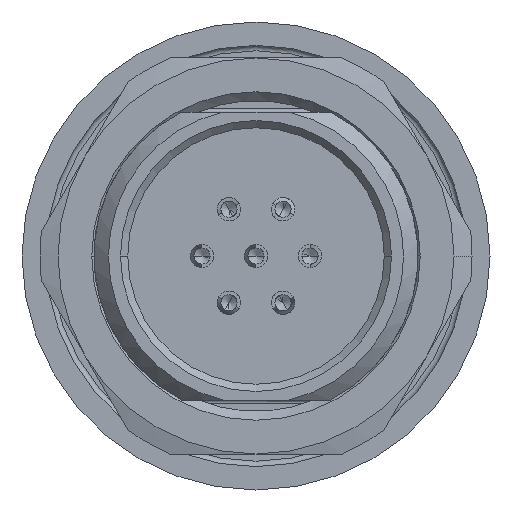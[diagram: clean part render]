
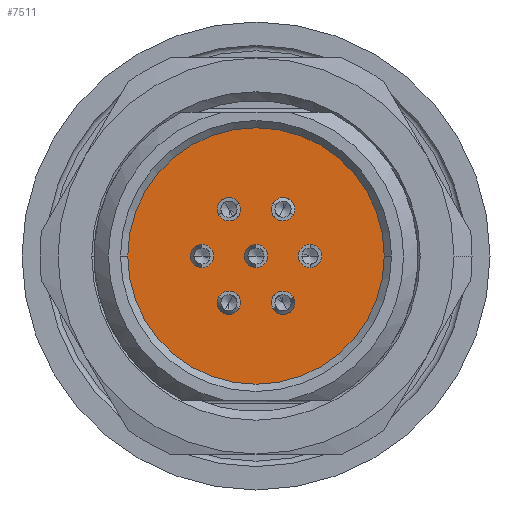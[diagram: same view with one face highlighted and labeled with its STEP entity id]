
A CAD part, left-side view. The second image highlights one B-rep face of the part: STEP entity #7511.
In plain terms, the highlighted planar face has unit normal (-1, 0, 0).
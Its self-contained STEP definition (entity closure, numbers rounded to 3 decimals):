
#1820=CARTESIAN_POINT('',(-10.,0.,0.));
#1821=DIRECTION('',(1.,0.,0.));
#1822=DIRECTION('',(0.,-1.,0.));
#1823=AXIS2_PLACEMENT_3D('',#1820,#1821,#1822);
#1838=CARTESIAN_POINT('',(-10.,3.,0.));
#1839=DIRECTION('',(-1.,0.,0.));
#1840=DIRECTION('',(0.,1.,0.));
#1841=AXIS2_PLACEMENT_3D('',#1838,#1839,#1840);
#1843=CARTESIAN_POINT('',(-10.,3.,0.));
#1844=DIRECTION('',(-1.,0.,0.));
#1845=DIRECTION('',(0.,-1.,0.));
#1846=AXIS2_PLACEMENT_3D('',#1843,#1844,#1845);
#1848=CARTESIAN_POINT('',(-10.,1.5,2.598));
#1849=DIRECTION('',(-1.,0.,0.));
#1850=DIRECTION('',(0.,0.5,0.866));
#1851=AXIS2_PLACEMENT_3D('',#1848,#1849,#1850);
#1853=CARTESIAN_POINT('',(-10.,1.5,2.598));
#1854=DIRECTION('',(-1.,0.,0.));
#1855=DIRECTION('',(0.,-0.5,-0.866));
#1856=AXIS2_PLACEMENT_3D('',#1853,#1854,#1855);
#1858=CARTESIAN_POINT('',(-10.,-1.5,2.598));
#1859=DIRECTION('',(-1.,0.,0.));
#1860=DIRECTION('',(0.,-0.5,0.866));
#1861=AXIS2_PLACEMENT_3D('',#1858,#1859,#1860);
#1863=CARTESIAN_POINT('',(-10.,-1.5,2.598));
#1864=DIRECTION('',(-1.,0.,0.));
#1865=DIRECTION('',(0.,0.5,-0.866));
#1866=AXIS2_PLACEMENT_3D('',#1863,#1864,#1865);
#1868=CARTESIAN_POINT('',(-10.,-3.,0.));
#1869=DIRECTION('',(-1.,0.,0.));
#1870=DIRECTION('',(0.,-1.,0.));
#1871=AXIS2_PLACEMENT_3D('',#1868,#1869,#1870);
#1873=CARTESIAN_POINT('',(-10.,-3.,0.));
#1874=DIRECTION('',(-1.,0.,0.));
#1875=DIRECTION('',(0.,1.,0.));
#1876=AXIS2_PLACEMENT_3D('',#1873,#1874,#1875);
#1878=CARTESIAN_POINT('',(-10.,-1.5,-2.598));
#1879=DIRECTION('',(-1.,0.,0.));
#1880=DIRECTION('',(0.,-0.5,-0.866));
#1881=AXIS2_PLACEMENT_3D('',#1878,#1879,#1880);
#1883=CARTESIAN_POINT('',(-10.,-1.5,-2.598));
#1884=DIRECTION('',(-1.,0.,0.));
#1885=DIRECTION('',(0.,0.5,0.866));
#1886=AXIS2_PLACEMENT_3D('',#1883,#1884,#1885);
#1888=CARTESIAN_POINT('',(-10.,1.5,-2.598));
#1889=DIRECTION('',(-1.,0.,0.));
#1890=DIRECTION('',(0.,0.5,-0.866));
#1891=AXIS2_PLACEMENT_3D('',#1888,#1889,#1890);
#1893=CARTESIAN_POINT('',(-10.,1.5,-2.598));
#1894=DIRECTION('',(-1.,0.,0.));
#1895=DIRECTION('',(0.,-0.5,0.866));
#1896=AXIS2_PLACEMENT_3D('',#1893,#1894,#1895);
#1898=CARTESIAN_POINT('',(-10.,0.,0.));
#1899=DIRECTION('',(-1.,0.,0.));
#1900=DIRECTION('',(0.,1.,0.));
#1901=AXIS2_PLACEMENT_3D('',#1898,#1899,#1900);
#1903=CARTESIAN_POINT('',(-10.,0.,0.));
#1904=DIRECTION('',(-1.,0.,0.));
#1905=DIRECTION('',(0.,-1.,0.));
#1906=AXIS2_PLACEMENT_3D('',#1903,#1904,#1905);
#1908=CARTESIAN_POINT('',(-10.,0.,0.));
#1909=DIRECTION('',(1.,0.,0.));
#1910=DIRECTION('',(0.,1.,0.));
#1911=AXIS2_PLACEMENT_3D('',#1908,#1909,#1910);
#3819=CARTESIAN_POINT('',(-10.,3.65,0.));
#3820=CARTESIAN_POINT('',(-10.,2.35,0.));
#3821=VERTEX_POINT('',#3819);
#3822=VERTEX_POINT('',#3820);
#3857=CARTESIAN_POINT('',(-10.,1.825,3.161));
#3858=CARTESIAN_POINT('',(-10.,1.175,2.035));
#3859=VERTEX_POINT('',#3857);
#3860=VERTEX_POINT('',#3858);
#3895=CARTESIAN_POINT('',(-10.,-1.825,3.161));
#3896=CARTESIAN_POINT('',(-10.,-1.175,2.035));
#3897=VERTEX_POINT('',#3895);
#3898=VERTEX_POINT('',#3896);
#3933=CARTESIAN_POINT('',(-10.,-3.65,0.));
#3934=CARTESIAN_POINT('',(-10.,-2.35,0.));
#3935=VERTEX_POINT('',#3933);
#3936=VERTEX_POINT('',#3934);
#3971=CARTESIAN_POINT('',(-10.,-1.825,-3.161));
#3972=CARTESIAN_POINT('',(-10.,-1.175,-2.035));
#3973=VERTEX_POINT('',#3971);
#3974=VERTEX_POINT('',#3972);
#4009=CARTESIAN_POINT('',(-10.,1.825,-3.161));
#4010=CARTESIAN_POINT('',(-10.,1.175,-2.035));
#4011=VERTEX_POINT('',#4009);
#4012=VERTEX_POINT('',#4010);
#4047=CARTESIAN_POINT('',(-10.,0.65,0.));
#4048=CARTESIAN_POINT('',(-10.,-0.65,0.));
#4049=VERTEX_POINT('',#4047);
#4050=VERTEX_POINT('',#4048);
#4055=CARTESIAN_POINT('',(-10.,7.125,0.));
#4056=CARTESIAN_POINT('',(-10.,-7.125,0.));
#4057=VERTEX_POINT('',#4055);
#4058=VERTEX_POINT('',#4056);
#7459=CARTESIAN_POINT('',(-10.,0.,0.));
#7460=DIRECTION('',(1.,0.,0.));
#7461=DIRECTION('',(0.,-1.,0.));
#7462=AXIS2_PLACEMENT_3D('',#7459,#7460,#7461);
#7463=PLANE('',#7462);
#7465=ORIENTED_EDGE('',*,*,#7464,.T.);
#7466=ORIENTED_EDGE('',*,*,#7442,.T.);
#7467=EDGE_LOOP('',(#7465,#7466));
#7468=FACE_OUTER_BOUND('',#7467,.F.);
#7470=ORIENTED_EDGE('',*,*,#7469,.T.);
#7472=ORIENTED_EDGE('',*,*,#7471,.T.);
#7473=EDGE_LOOP('',(#7470,#7472));
#7474=FACE_BOUND('',#7473,.F.);
#7476=ORIENTED_EDGE('',*,*,#7475,.T.);
#7478=ORIENTED_EDGE('',*,*,#7477,.T.);
#7479=EDGE_LOOP('',(#7476,#7478));
#7480=FACE_BOUND('',#7479,.F.);
#7482=ORIENTED_EDGE('',*,*,#7481,.T.);
#7484=ORIENTED_EDGE('',*,*,#7483,.T.);
#7485=EDGE_LOOP('',(#7482,#7484));
#7486=FACE_BOUND('',#7485,.F.);
#7488=ORIENTED_EDGE('',*,*,#7487,.T.);
#7490=ORIENTED_EDGE('',*,*,#7489,.T.);
#7491=EDGE_LOOP('',(#7488,#7490));
#7492=FACE_BOUND('',#7491,.F.);
#7494=ORIENTED_EDGE('',*,*,#7493,.T.);
#7496=ORIENTED_EDGE('',*,*,#7495,.T.);
#7497=EDGE_LOOP('',(#7494,#7496));
#7498=FACE_BOUND('',#7497,.F.);
#7500=ORIENTED_EDGE('',*,*,#7499,.T.);
#7502=ORIENTED_EDGE('',*,*,#7501,.T.);
#7503=EDGE_LOOP('',(#7500,#7502));
#7504=FACE_BOUND('',#7503,.F.);
#7506=ORIENTED_EDGE('',*,*,#7505,.T.);
#7508=ORIENTED_EDGE('',*,*,#7507,.T.);
#7509=EDGE_LOOP('',(#7506,#7508));
#7510=FACE_BOUND('',#7509,.F.);
#7511=ADVANCED_FACE('',(#7468,#7474,#7480,#7486,#7492,#7498,#7504,#7510),#7463,
.F.);
#1824=CIRCLE('',#1823,7.125);
#1842=CIRCLE('',#1841,0.65);
#1847=CIRCLE('',#1846,0.65);
#1852=CIRCLE('',#1851,0.65);
#1857=CIRCLE('',#1856,0.65);
#1862=CIRCLE('',#1861,0.65);
#1867=CIRCLE('',#1866,0.65);
#1872=CIRCLE('',#1871,0.65);
#1877=CIRCLE('',#1876,0.65);
#1882=CIRCLE('',#1881,0.65);
#1887=CIRCLE('',#1886,0.65);
#1892=CIRCLE('',#1891,0.65);
#1897=CIRCLE('',#1896,0.65);
#1902=CIRCLE('',#1901,0.65);
#1907=CIRCLE('',#1906,0.65);
#1912=CIRCLE('',#1911,7.125);
#7442=EDGE_CURVE('',#4058,#4057,#1824,.T.);
#7464=EDGE_CURVE('',#4057,#4058,#1912,.T.);
#7469=EDGE_CURVE('',#3821,#3822,#1842,.T.);
#7471=EDGE_CURVE('',#3822,#3821,#1847,.T.);
#7475=EDGE_CURVE('',#3859,#3860,#1852,.T.);
#7477=EDGE_CURVE('',#3860,#3859,#1857,.T.);
#7481=EDGE_CURVE('',#3897,#3898,#1862,.T.);
#7483=EDGE_CURVE('',#3898,#3897,#1867,.T.);
#7487=EDGE_CURVE('',#3935,#3936,#1872,.T.);
#7489=EDGE_CURVE('',#3936,#3935,#1877,.T.);
#7493=EDGE_CURVE('',#3973,#3974,#1882,.T.);
#7495=EDGE_CURVE('',#3974,#3973,#1887,.T.);
#7499=EDGE_CURVE('',#4011,#4012,#1892,.T.);
#7501=EDGE_CURVE('',#4012,#4011,#1897,.T.);
#7505=EDGE_CURVE('',#4049,#4050,#1902,.T.);
#7507=EDGE_CURVE('',#4050,#4049,#1907,.T.);
